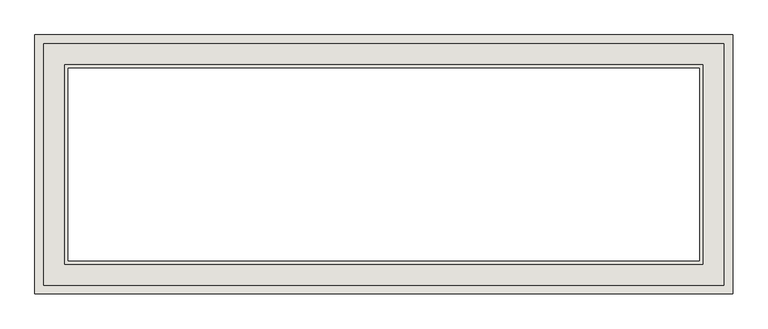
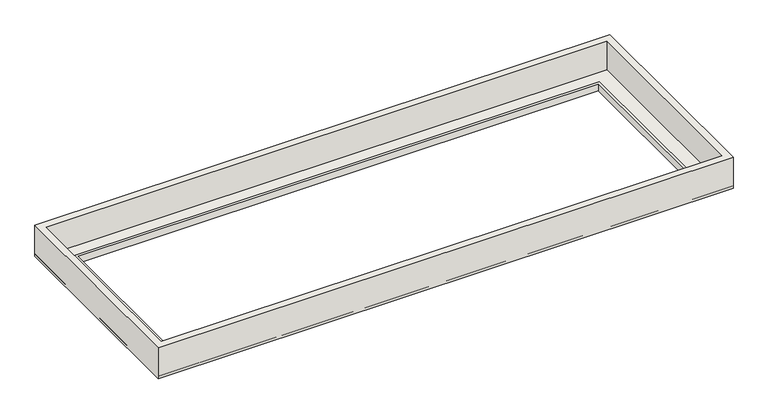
"""IFC4 building model written with IfcOpenShell, lengths in millimetres: wall geometry, 間接照明2 : 間接照明2."""

from ifc_helpers import new_model, si_unit, frame, origin, place, context, project, spatial, polyline, outline, extrude, source, transform, mapped, element, save


def wall_08e8096b(model_context):
    return source(origin(), model_context, "Body", "SweptSolid", [
        extrude(outline(polyline([(10475.4763102, 1284.1843477), (10475.4763102, -2611.1090918), (-22.1704096, -2611.1090918), (-22.1704096, 1284.1843477), (10475.4763102, 1284.1843477)]), holes=[polyline([(10345.4763102, 1154.1843477), (107.8295904, 1154.1843477), (107.8295904, -2481.1090918), (10345.4763102, -2481.1090918), (10345.4763102, 1154.1843477)])]), frame((0.0, 0.0, 2400.1), z_axis=(0.0, 0.0, 1.0), x_axis=(1.0, 0.0, 0.0)), (0.0, 0.0, 1.0), 599.9),
        extrude(outline(polyline([(10025.4763102, 834.1843477), (10025.4763102, -2161.1090918), (427.8295904, -2161.1090918), (427.8295904, 834.1843477), (10025.4763102, 834.1843477)]), holes=[polyline([(9975.4763102, 784.1843477), (477.8295904, 784.1843477), (477.8295904, -2111.1090918), (9975.4763102, -2111.1090918), (9975.4763102, 784.1843477)])]), frame((0.0, 0.0, 2400.1), z_axis=(0.0, 0.0, 1.0), x_axis=(1.0, 0.0, 0.0)), (0.0, 0.0, 1.0), 129.9),
        extrude(outline(polyline([(10475.4763102, 1284.1843477), (10475.4763102, -2611.1090918), (-22.1704096, -2611.1090918), (-22.1704096, 1284.1843477), (10475.4763102, 1284.1843477)]), holes=[polyline([(9975.4763102, 784.1843477), (477.8295904, 784.1843477), (477.8295904, -2111.1090918), (9975.4763102, -2111.1090918), (9975.4763102, 784.1843477)])]), frame((0.0, 0.0, 2400.1), z_axis=(0.0, 0.0, 1.0), x_axis=(1.0, 0.0, 0.0)), (0.0, 0.0, 1.0), 49.9),
    ])


if __name__ == "__main__":
    model = new_model("IFC4")
    model_context = context("Model", 3, world=origin())
    ifc_project = project(units=[si_unit("LENGTHUNIT", "METRE", prefix="MILLI")], contexts=[model_context])
    site = spatial("IfcSite", under=ifc_project)
    building = spatial("IfcBuilding", under=site)
    placement = place(None, origin())
    wall_shape = wall_08e8096b(model_context)
    element("IfcWall", 1, ObjectType="間接照明2 : 間接照明2", at=placement, inside=building, context=model_context, shape_type="MappedRepresentation", body=[
        mapped(wall_shape, transform((0.0, 0.0, 0.0), x_axis=(1.0, 0.0, 0.0), y_axis=(0.0, 1.0, 0.0), z_axis=(0.0, 0.0, 1.0))),
    ])
    save(model, "model.ifc")
